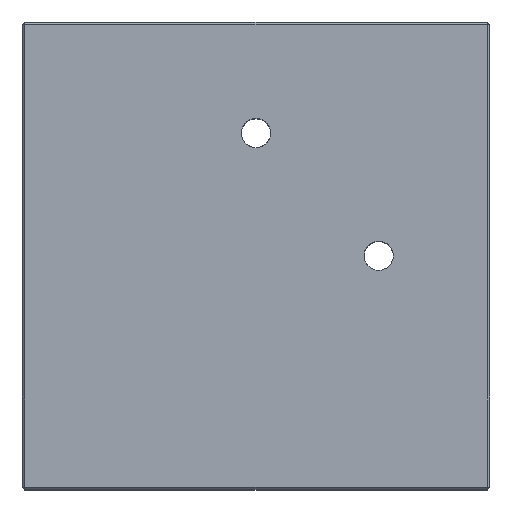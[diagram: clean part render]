
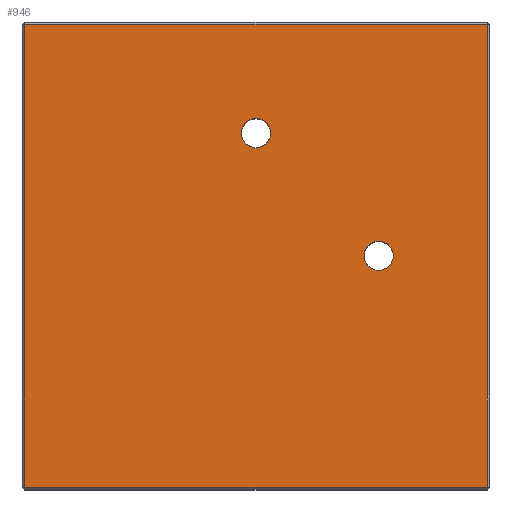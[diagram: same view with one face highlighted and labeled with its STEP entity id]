
A CAD part, top view. The second image highlights one B-rep face of the part: STEP entity #946.
In plain terms, the highlighted planar face has unit normal (0, 0, 1).
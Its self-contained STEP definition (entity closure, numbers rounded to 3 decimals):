
#73=FACE_BOUND('',#212,.T.);
#74=FACE_BOUND('',#213,.T.);
#103=PLANE('',#1057);
#151=FACE_OUTER_BOUND('',#211,.T.);
#211=EDGE_LOOP('',(#847,#848,#849,#850));
#212=EDGE_LOOP('',(#851));
#213=EDGE_LOOP('',(#852));
#274=LINE('',#1824,#339);
#279=LINE('',#1833,#344);
#280=LINE('',#1835,#345);
#281=LINE('',#1837,#346);
#339=VECTOR('',#1260,10.);
#344=VECTOR('',#1271,10.);
#345=VECTOR('',#1274,10.);
#346=VECTOR('',#1277,10.);
#367=CIRCLE('',#997,1.25);
#370=CIRCLE('',#1003,1.25);
#414=VERTEX_POINT('',#1380);
#439=VERTEX_POINT('',#1643);
#459=VERTEX_POINT('',#1790);
#463=VERTEX_POINT('',#1809);
#464=VERTEX_POINT('',#1816);
#466=VERTEX_POINT('',#1827);
#501=EDGE_CURVE('',#414,#414,#367,.T.);
#529=EDGE_CURVE('',#439,#439,#370,.T.);
#587=EDGE_CURVE('',#459,#464,#274,.T.);
#592=EDGE_CURVE('',#464,#466,#279,.T.);
#593=EDGE_CURVE('',#466,#463,#280,.T.);
#594=EDGE_CURVE('',#463,#459,#281,.T.);
#847=ORIENTED_EDGE('',*,*,#587,.F.);
#848=ORIENTED_EDGE('',*,*,#594,.F.);
#849=ORIENTED_EDGE('',*,*,#593,.F.);
#850=ORIENTED_EDGE('',*,*,#592,.F.);
#851=ORIENTED_EDGE('',*,*,#501,.T.);
#852=ORIENTED_EDGE('',*,*,#529,.T.);
#946=ADVANCED_FACE('',(#151,#73,#74),#103,.T.);
#997=AXIS2_PLACEMENT_3D('',#1381,#1123,#1124);
#1003=AXIS2_PLACEMENT_3D('',#1644,#1138,#1139);
#1057=AXIS2_PLACEMENT_3D('',#1845,#1289,#1290);
#1123=DIRECTION('center_axis',(0.,0.,-1.));
#1124=DIRECTION('ref_axis',(1.,0.,0.));
#1138=DIRECTION('center_axis',(0.,0.,-1.));
#1139=DIRECTION('ref_axis',(1.,0.,0.));
#1260=DIRECTION('',(0.,1.,0.));
#1271=DIRECTION('',(1.,0.,0.));
#1274=DIRECTION('',(0.,-1.,0.));
#1277=DIRECTION('',(-1.,0.,0.));
#1289=DIRECTION('center_axis',(0.,0.,1.));
#1290=DIRECTION('ref_axis',(1.,0.,0.));
#1380=CARTESIAN_POINT('',(-1.25,10.5,25.));
#1381=CARTESIAN_POINT('Origin',(0.,10.5,25.));
#1643=CARTESIAN_POINT('',(9.25,0.,25.));
#1644=CARTESIAN_POINT('Origin',(10.5,0.,25.));
#1790=CARTESIAN_POINT('',(-19.8,-19.8,25.));
#1809=CARTESIAN_POINT('',(19.8,-19.8,25.));
#1816=CARTESIAN_POINT('',(-19.8,19.8,25.));
#1824=CARTESIAN_POINT('',(-19.8,10.,25.));
#1827=CARTESIAN_POINT('',(19.8,19.8,25.));
#1833=CARTESIAN_POINT('',(10.,19.8,25.));
#1835=CARTESIAN_POINT('',(19.8,-10.,25.));
#1837=CARTESIAN_POINT('',(-10.,-19.8,25.));
#1845=CARTESIAN_POINT('Origin',(0.,0.,25.));
